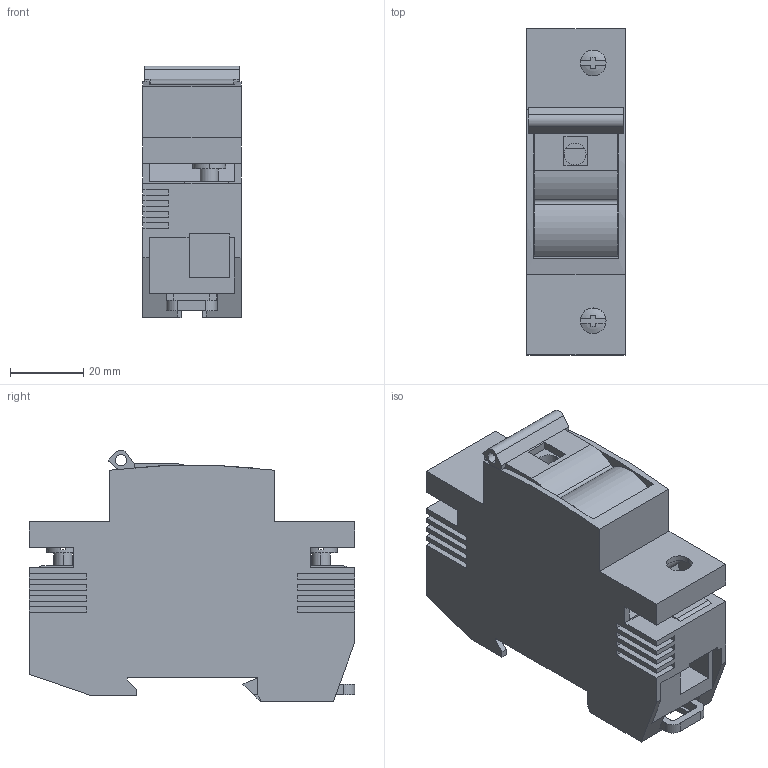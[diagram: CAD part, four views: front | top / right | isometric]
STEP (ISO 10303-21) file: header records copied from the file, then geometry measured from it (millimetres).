
FILE_DESCRIPTION((''),'2;1');
FILE_NAME('SB109128_3D-SIMPLIFIED_ASM','2012-05-16T',('Nyco'),(''),'PRO/ENGINEER BY PARAMETRIC TECHNOLOGY CORPORATION, 2006170','PRO/ENGINEER BY PARAMETRIC TECHNOLOGY CORPORATION, 2006170','');
FILE_SCHEMA(('CONFIG_CONTROL_DESIGN'));
Length unit declared in the file: millimetre
Products named in the file (5): COQUE; MANETTE; CLIP; VIS; SB109128_3D-SIMPLIFIED_ASM
Assembly tree (5 placements, depth 2):
  SB109128_3D-SIMPLIFIED_ASM
    COQUE
    MANETTE
    CLIP
    VIS  x2
Bounding box: 26.8 x 89 x 68.8 mm (x, y, z)
Volume: 106699.3 mm3; surface area: 28588 mm2
Topology: 5 solids, 5 shells, 248 faces, 705 edges, 468 vertices
Faces by surface type: plane 205, cylinder 39, sphere 4
Entity records: 7566 total; most frequent: CARTESIAN_POINT 1332, ORIENTED_EDGE 1314, DIRECTION 1221, EDGE_CURVE 657, VECTOR 571, LINE 571, VERTEX_POINT 436, AXIS2_PLACEMENT_3D 325
